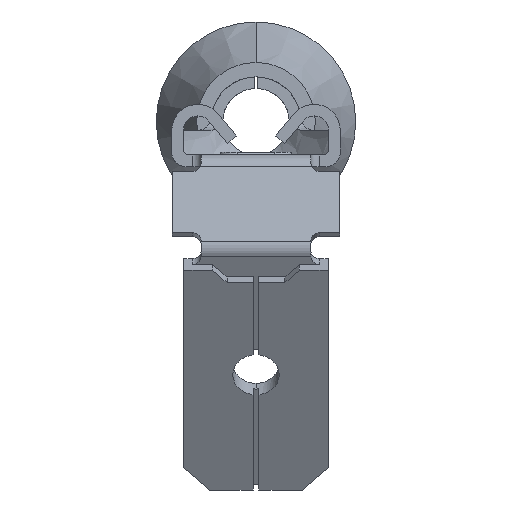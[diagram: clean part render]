
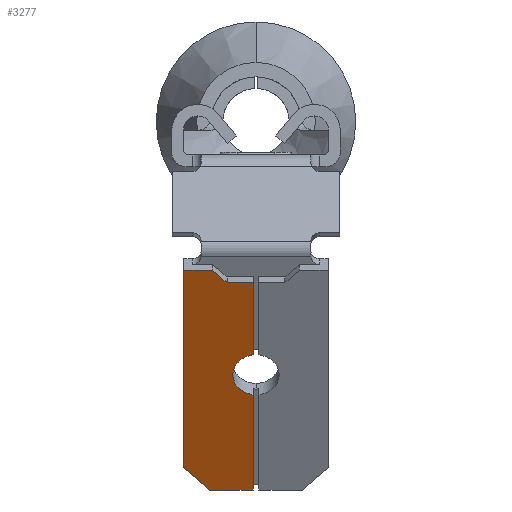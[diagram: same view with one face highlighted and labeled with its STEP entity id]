
A CAD part, front view. The second image highlights one B-rep face of the part: STEP entity #3277.
In plain terms, the highlighted planar face has unit normal (0, -0.866, -0.5).
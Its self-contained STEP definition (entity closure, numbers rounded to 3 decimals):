
#6 = ORIENTED_EDGE ( 'NONE', *, *, #399, .T. ) ;
#117 = DIRECTION ( 'NONE',  ( 0., -0.5, 0.866 ) ) ;
#272 = DIRECTION ( 'NONE',  ( 0., -0.5, 0.866 ) ) ;
#288 = VERTEX_POINT ( 'NONE', #1756 ) ;
#300 = DIRECTION ( 'NONE',  ( 0., 0.5, -0.866 ) ) ;
#399 = EDGE_CURVE ( 'NONE', #1014, #1359, #1629, .T. ) ;
#454 = ORIENTED_EDGE ( 'NONE', *, *, #1373, .T. ) ;
#506 = LINE ( 'NONE', #2225, #3336 ) ;
#627 = VECTOR ( 'NONE', #117, 1000. ) ;
#896 = EDGE_CURVE ( 'NONE', #288, #3866, #1966, .T. ) ;
#914 = LINE ( 'NONE', #3445, #1896 ) ;
#983 = VECTOR ( 'NONE', #272, 1000. ) ;
#1014 = VERTEX_POINT ( 'NONE', #4713 ) ;
#1022 = CARTESIAN_POINT ( 'NONE',  ( -0.1, -17.357, -5.569 ) ) ;
#1026 = VERTEX_POINT ( 'NONE', #3991 ) ;
#1059 = EDGE_CURVE ( 'NONE', #3866, #1026, #506, .T. ) ;
#1108 = ORIENTED_EDGE ( 'NONE', *, *, #2599, .F. ) ;
#1146 = CARTESIAN_POINT ( 'NONE',  ( -1.5, -17.607, -5.136 ) ) ;
#1226 = DIRECTION ( 'NONE',  ( 0., 0.5, -0.866 ) ) ;
#1245 = CARTESIAN_POINT ( 'NONE',  ( -2.5, -17.607, -5.136 ) ) ;
#1359 = VERTEX_POINT ( 'NONE', #2352 ) ;
#1373 = EDGE_CURVE ( 'NONE', #4020, #2729, #2433, .T. ) ;
#1479 = DIRECTION ( 'NONE',  ( 0., -0.866, -0.5 ) ) ;
#1571 = CARTESIAN_POINT ( 'NONE',  ( -2.5, -17.607, -5.136 ) ) ;
#1629 = LINE ( 'NONE', #2972, #627 ) ;
#1690 = AXIS2_PLACEMENT_3D ( 'NONE', #4696, #2542, #300 ) ;
#1711 = EDGE_CURVE ( 'NONE', #1359, #4020, #914, .T. ) ;
#1756 = CARTESIAN_POINT ( 'NONE',  ( -2.5, -17.607, -5.136 ) ) ;
#1762 = LINE ( 'NONE', #4224, #4542 ) ;
#1816 = PLANE ( 'NONE',  #4187 ) ;
#1824 = CARTESIAN_POINT ( 'NONE',  ( -1., -17.357, -5.569 ) ) ;
#1896 = VECTOR ( 'NONE', #4147, 1000. ) ;
#1966 = LINE ( 'NONE', #1245, #4634 ) ;
#2044 = EDGE_LOOP ( 'NONE', ( #1108, #6, #3444, #454, #2650, #3784, #2531, #2449, #2380 ) ) ;
#2059 = DIRECTION ( 'NONE',  ( 1., 0., 0. ) ) ;
#2204 = CARTESIAN_POINT ( 'NONE',  ( 0., -15.429, -8.908 ) ) ;
#2225 = CARTESIAN_POINT ( 'NONE',  ( -2.5, -13.669, -11.957 ) ) ;
#2352 = CARTESIAN_POINT ( 'NONE',  ( -0.1, -17.357, -5.569 ) ) ;
#2380 = ORIENTED_EDGE ( 'NONE', *, *, #2555, .T. ) ;
#2433 = LINE ( 'NONE', #3102, #3521 ) ;
#2449 = ORIENTED_EDGE ( 'NONE', *, *, #4326, .T. ) ;
#2531 = ORIENTED_EDGE ( 'NONE', *, *, #1059, .T. ) ;
#2542 = DIRECTION ( 'NONE',  ( 0., -0.866, -0.5 ) ) ;
#2555 = EDGE_CURVE ( 'NONE', #4310, #2701, #4008, .T. ) ;
#2599 = EDGE_CURVE ( 'NONE', #1014, #2701, #2824, .T. ) ;
#2650 = ORIENTED_EDGE ( 'NONE', *, *, #2844, .T. ) ;
#2701 = VERTEX_POINT ( 'NONE', #3347 ) ;
#2729 = VERTEX_POINT ( 'NONE', #1146 ) ;
#2824 = CIRCLE ( 'NONE', #1690, 0.8 ) ;
#2844 = EDGE_CURVE ( 'NONE', #2729, #288, #3733, .T. ) ;
#2972 = CARTESIAN_POINT ( 'NONE',  ( -0.1, -17.357, -5.569 ) ) ;
#2982 = FACE_OUTER_BOUND ( 'NONE', #2044, .T. ) ;
#3102 = CARTESIAN_POINT ( 'NONE',  ( -1.5, -17.607, -5.136 ) ) ;
#3138 = DIRECTION ( 'NONE',  ( -0.707, -0.354, 0.612 ) ) ;
#3146 = CARTESIAN_POINT ( 'NONE',  ( -0.1, -13.219, -12.737 ) ) ;
#3206 = CARTESIAN_POINT ( 'NONE',  ( -2.5, -13.669, -11.957 ) ) ;
#3277 = ADVANCED_FACE ( 'NONE', ( #2982 ), #1816, .T. ) ;
#3302 = DIRECTION ( 'NONE',  ( 0.707, 0.354, -0.612 ) ) ;
#3336 = VECTOR ( 'NONE', #3302, 1000. ) ;
#3347 = CARTESIAN_POINT ( 'NONE',  ( -0.1, -15.122, -9.44 ) ) ;
#3444 = ORIENTED_EDGE ( 'NONE', *, *, #1711, .T. ) ;
#3445 = CARTESIAN_POINT ( 'NONE',  ( -1., -17.357, -5.569 ) ) ;
#3521 = VECTOR ( 'NONE', #3138, 1000. ) ;
#3628 = VECTOR ( 'NONE', #3774, 1000. ) ;
#3733 = LINE ( 'NONE', #1571, #3628 ) ;
#3774 = DIRECTION ( 'NONE',  ( -1., 0., 0. ) ) ;
#3784 = ORIENTED_EDGE ( 'NONE', *, *, #896, .T. ) ;
#3866 = VERTEX_POINT ( 'NONE', #3206 ) ;
#3991 = CARTESIAN_POINT ( 'NONE',  ( -1.6, -13.219, -12.737 ) ) ;
#4008 = LINE ( 'NONE', #1022, #983 ) ;
#4018 = DIRECTION ( 'NONE',  ( 0., 0.5, -0.866 ) ) ;
#4020 = VERTEX_POINT ( 'NONE', #1824 ) ;
#4147 = DIRECTION ( 'NONE',  ( -1., 0., 0. ) ) ;
#4187 = AXIS2_PLACEMENT_3D ( 'NONE', #2204, #1479, #4018 ) ;
#4224 = CARTESIAN_POINT ( 'NONE',  ( -1.6, -13.219, -12.737 ) ) ;
#4310 = VERTEX_POINT ( 'NONE', #3146 ) ;
#4326 = EDGE_CURVE ( 'NONE', #1026, #4310, #1762, .T. ) ;
#4542 = VECTOR ( 'NONE', #2059, 1000. ) ;
#4634 = VECTOR ( 'NONE', #1226, 1000. ) ;
#4696 = CARTESIAN_POINT ( 'NONE',  ( 0., -15.519, -8.753 ) ) ;
#4713 = CARTESIAN_POINT ( 'NONE',  ( -0.1, -15.916, -8.065 ) ) ;
